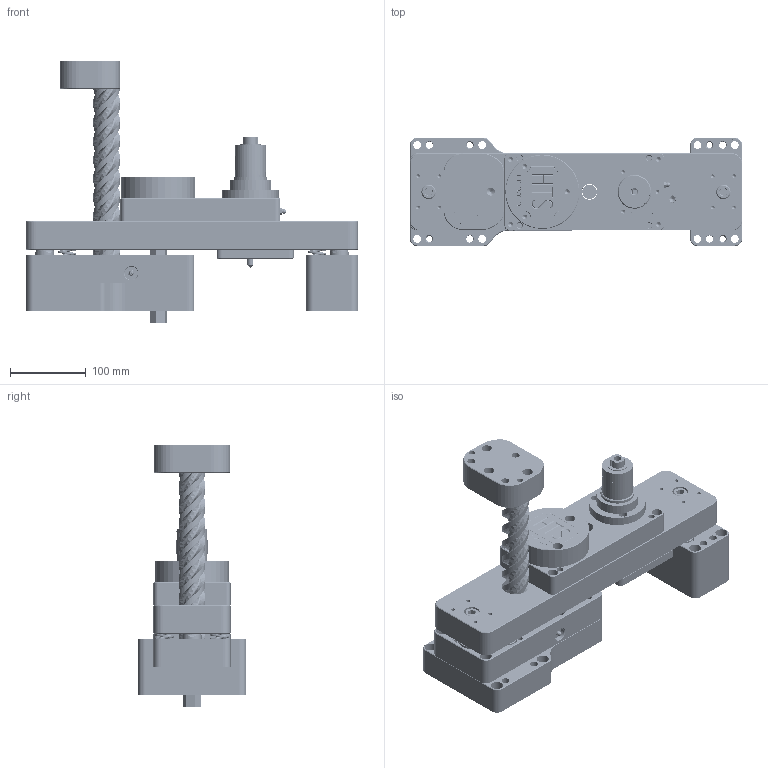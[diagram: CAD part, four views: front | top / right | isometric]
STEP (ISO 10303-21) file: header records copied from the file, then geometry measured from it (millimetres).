
FILE_DESCRIPTION(/* description */ ('Unknown'),/* implementation_level */ '2;1');
FILE_NAME(/* name */ '6100-6instrk',/* time_stamp */ '2018-07-27T14:23:34-04:00',/* author */ ('Unknown'),/* organization */ ('Unknown'),/* preprocessor_version */ 'ST-DEVELOPER v16.7',/* originating_system */ 'DEX',/* authorisation */ $);
FILE_SCHEMA (('AUTOMOTIVE_DESIGN {1 0 10303 214 3 1 1}'));
Products named in the file (28): 6100-000 NEW STD; Tap 5_16-18; 6022-5_16-18; 6020-018; 6025-000; 6119-000; 6107A-000C; 6147-005; 6107B-000C; 6136-M8.0F; 6137A-000-2pstd; 6017-000; 6138-300; BASE-GK95-L_BASE-GK95-L2-E; 6011-006FA; 3_8-16X750_SHCS; 1_2-13X1-1_2 SHCS; 6129-200; RETAININGRING-EXTERNAL-STANDARD; BUSHING-BU-1_0ID-2_0LONG_BUSHIN; 6107C-000-std; 6106B-000-std; 6106A-000-std; 6008-000; 6121-000; 6109-000; 6118A-000; 6012-000
Assembly tree (43 placements, depth 2):
  6100-000 NEW STD
    Tap 5_16-18
    6022-5_16-18
    6020-018
    6025-000
    6119-000
    6107A-000C
    6147-005
    6107B-000C
    6136-M8.0F
    6137A-000-2pstd
    6017-000  x2
    6138-300  x2
    BASE-GK95-L_BASE-GK95-L2-E  x2
    6011-006FA
    3_8-16X750_SHCS  x8
    1_2-13X1-1_2 SHCS  x2
    6129-200  x4
    RETAININGRING-EXTERNAL-STANDARD  x2
    BUSHING-BU-1_0ID-2_0LONG_BUSHIN  x2
    6107C-000-std
    6106B-000-std
    6106A-000-std
    6008-000
    6121-000
    6109-000
    6118A-000
    6012-000
Bounding box: 437.99 x 142.89 x 346.11 mm (x, y, z)
Volume: 5185555.6 mm3; surface area: 879957.2 mm2
Topology: 43 solids, 43 shells, 1480 faces, 4535 edges, 3264 vertices
Faces by surface type: plane 606, cylinder 466, cone 268, bspline 90, torus 46, sphere 4
Full cylindrical faces by diameter (mm): 1.587 x4, 1.981 x4, 4.039 x1, 4.976 x16, 5.004 x1, 5.105 x6, 5.156 x18, 5.954 x2, 6.35 x7, 6.528 x14, 6.805 x3, 7.142 x6, 7.144 x3, 7.541 x2, 7.805 x4, 7.925 x2, 7.938 x36, 8.077 x1, 8.731 x3, 8.733 x8, 8.738 x1, 9.058 x1, 9.525 x4, 9.906 x1, 10.312 x8, 10.317 x22, 10.584 x2, 10.716 x2, 10.719 x2, 11.113 x7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
Entity records: 86303 total; most frequent: CARTESIAN_POINT 54508, DIRECTION 4872, ORIENTED_EDGE 4674, EDGE_CURVE 2337, AXIS2_PLACEMENT_3D 1991, FACE_BOUND 1845, EDGE_LOOP 1814, VERTEX_POINT 1790
